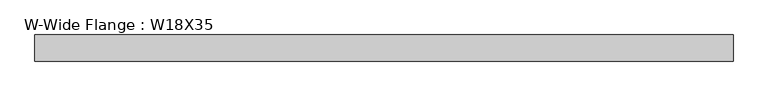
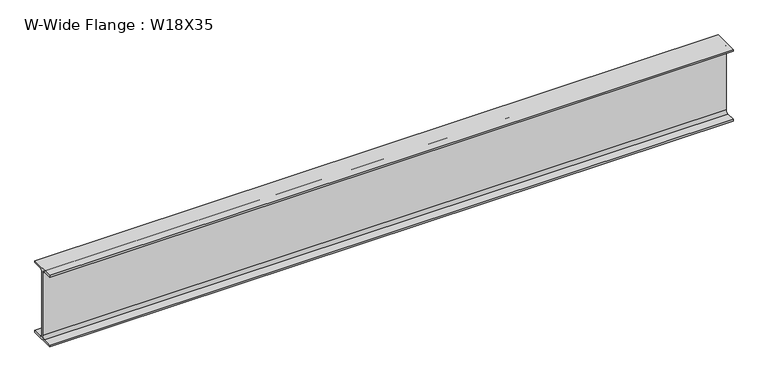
"""IFC4 building model written with IfcOpenShell, lengths in millimetres: beam geometry, W-Wide Flange : W18X35."""

from ifc_helpers import new_model, si_unit, point, frame, frame_2d, origin, place, context, project, spatial, polyline, circle_curve, trimmed, segment, composite_curve, outline, extrude, source, transform, mapped, element, save


def w_wide_flange_w18x35_de695320(model_context):
    return source(origin(), model_context, "Body", "SweptSolid", [
        extrude(outline(composite_curve([segment(polyline([(76.2, -213.995), (76.2, -224.79), (-76.2, -224.79), (-76.2, -213.995), (-21.59, -213.995)]), True, "CONTINUOUS"), segment(trimmed(circle_curve(frame_2d((-21.59, -196.215)), 17.78), [point((-21.59, -213.995))], [point((-3.81, -196.215))], True, "CARTESIAN"), True, "CONTINUOUS"), segment(polyline([(-3.81, -196.215), (-3.81, 196.215)]), True, "CONTINUOUS"), segment(trimmed(circle_curve(frame_2d((-21.59, 196.215)), 17.78), [point((-3.81, 196.215))], [point((-21.59, 213.995))], True, "CARTESIAN"), True, "CONTINUOUS"), segment(polyline([(-21.59, 213.995), (-76.2, 213.995), (-76.2, 224.79), (76.2, 224.79), (76.2, 213.995), (21.59, 213.995)]), True, "CONTINUOUS"), segment(trimmed(circle_curve(frame_2d((21.59, 196.215)), 17.78), [point((21.59, 213.995))], [point((3.81, 196.215))], True, "CARTESIAN"), True, "CONTINUOUS"), segment(polyline([(3.81, 196.215), (3.81, -196.215)]), True, "CONTINUOUS"), segment(trimmed(circle_curve(frame_2d((21.59, -196.215)), 17.78), [point((3.81, -196.215))], [point((21.59, -213.995))], True, "CARTESIAN"), True, "CONTINUOUS"), segment(polyline([(21.59, -213.995), (76.2, -213.995)]), True, "CONTINUOUS")], self_intersect=False)), frame((-2133.467846, 0.0, 0.0), z_axis=(1.0, 0.0, 0.0), x_axis=(0.0, 1.0, 0.0)), (0.0, 0.0, 1.0), 4067.545692),
    ])


if __name__ == "__main__":
    model = new_model("IFC4")
    model_context = context("Model", 3, world=origin())
    ifc_project = project(units=[si_unit("LENGTHUNIT", "METRE", prefix="MILLI")], contexts=[model_context])
    site = spatial("IfcSite", under=ifc_project)
    building = spatial("IfcBuilding", under=site)
    placement = place(None, origin())
    w_wide_flange_w18x35_shape = w_wide_flange_w18x35_de695320(model_context)
    element("IfcBeam", 1, ObjectType="W-Wide Flange : W18X35", at=placement, inside=building, context=model_context, shape_type="MappedRepresentation", body=[
        mapped(w_wide_flange_w18x35_shape, transform((0.0, 0.0, 0.0), x_axis=(1.0, 0.0, 0.0), y_axis=(0.0, 1.0, 0.0), z_axis=(0.0, 0.0, 1.0))),
    ])
    save(model, "model.ifc")
